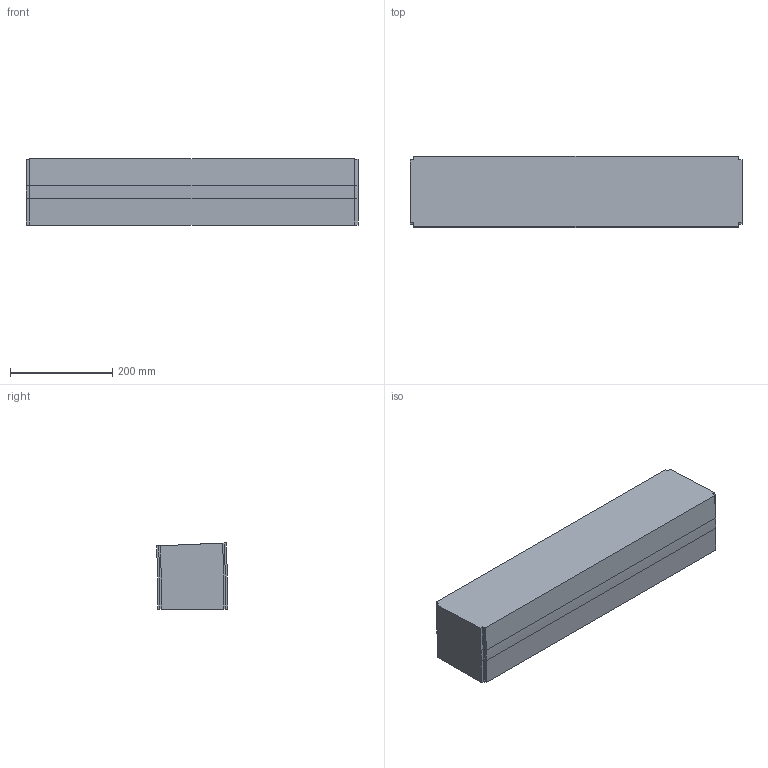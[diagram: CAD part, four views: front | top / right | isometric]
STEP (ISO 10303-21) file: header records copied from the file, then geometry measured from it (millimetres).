
FILE_DESCRIPTION (( 'STEP AP214' ), '1' );
FILE_NAME ('FS-MTC2-150-INOX verticaalbocht.650 2,5°.STEP', '2017-02-08T12:42:03', ( '' ), ( '' ), 'SwSTEP 2.0', 'SolidWorks 2016', '' );
FILE_SCHEMA (( 'AUTOMOTIVE_DESIGN' ));
Length unit declared in the file: millimetre
Products named in the file (1): FS-MTC2-150-INOX verticaalbocht.650 2,5°
Bounding box: 650.5 x 139.2 x 129.74 mm (x, y, z)
Volume: 11235603.4 mm3; surface area: 376803.9 mm2
Topology: 1 solids, 1 shells, 42 faces, 120 edges, 80 vertices
Faces by surface type: plane 32, cylinder 10
Entity records: 1398 total; most frequent: CARTESIAN_POINT 243, ORIENTED_EDGE 240, DIRECTION 226, EDGE_CURVE 120, VECTOR 100, LINE 100, VERTEX_POINT 80, AXIS2_PLACEMENT_3D 63
